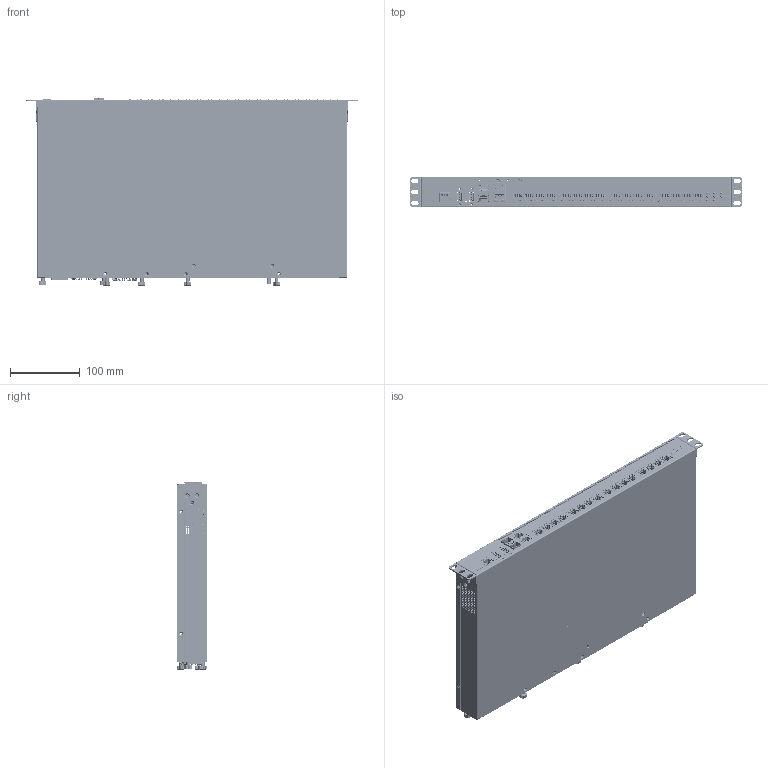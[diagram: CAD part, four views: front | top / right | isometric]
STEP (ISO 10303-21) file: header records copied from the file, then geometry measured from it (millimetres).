
FILE_DESCRIPTION (( 'STEP AP203' ), '1' );
FILE_NAME ('EZ16-A000.STEP', '2024-03-22T21:21:12', ( '' ), ( '' ), 'SwSTEP 2.0', 'SolidWorks 2022', '' );
FILE_SCHEMA (( 'CONFIG_CONTROL_DESIGN' ));
Products named in the file (1): EZ16-A000
Bounding box: 476 x 44 x 269.2 mm (x, y, z)
Surface area: 831954 mm2 (no closed solid volume)
Topology: 0 solids, 192 shells, 36197 faces, 104397 edges, 67038 vertices
Faces by surface type: plane 25369, cylinder 8252, bspline 1459, torus 589, cone 341, sphere 187
Entity records: 1273554 total; most frequent: CARTESIAN_POINT 349722, ORIENTED_EDGE 208005, DIRECTION 169183, EDGE_CURVE 104244, LINE 71483, VECTOR 71483, VERTEX_POINT 66991, AXIS2_PLACEMENT_3D 48850
